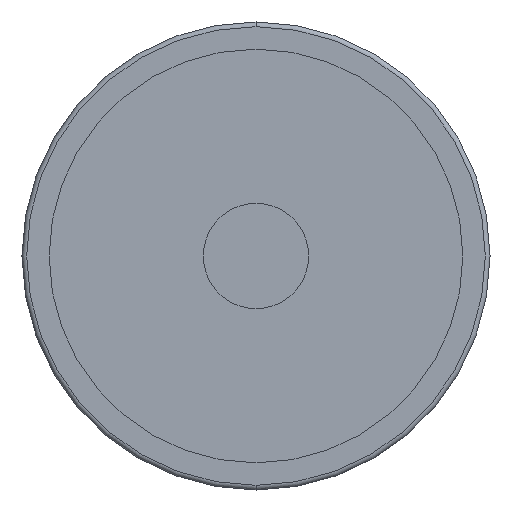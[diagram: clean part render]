
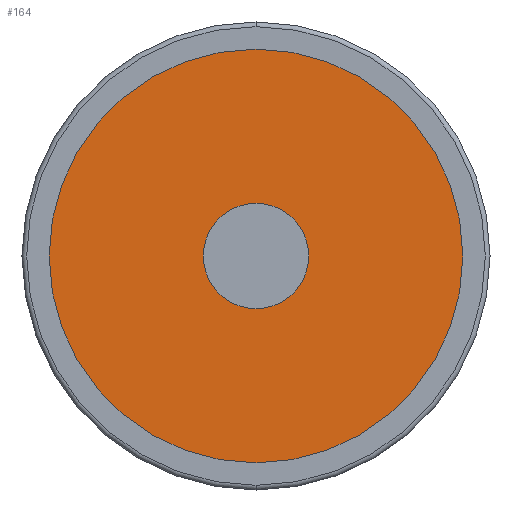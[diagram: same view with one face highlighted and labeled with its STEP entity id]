
A CAD part, front view. The second image highlights one B-rep face of the part: STEP entity #164.
In plain terms, the highlighted planar face has unit normal (0, -1, 0).
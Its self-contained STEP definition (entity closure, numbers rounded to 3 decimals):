
#164 = ADVANCED_FACE ( 'NONE', ( #1526, #2048 ), #1293, .T. ) ;
#238 = VERTEX_POINT ( 'NONE', #1914 ) ;
#316 = DIRECTION ( 'NONE',  ( 1., 0., 0. ) ) ;
#330 = DIRECTION ( 'NONE',  ( 1., 0., 0. ) ) ;
#335 = DIRECTION ( 'NONE',  ( 1., 0., 0. ) ) ;
#363 = CARTESIAN_POINT ( 'NONE',  ( -44.3, 4.5, 0. ) ) ;
#477 = EDGE_CURVE ( 'NONE', #1133, #238, #1060, .T. ) ;
#501 = EDGE_CURVE ( 'NONE', #238, #1133, #1857, .T. ) ;
#524 = VERTEX_POINT ( 'NONE', #1721 ) ;
#551 = DIRECTION ( 'NONE',  ( 0., -1., 0. ) ) ;
#642 = EDGE_LOOP ( 'NONE', ( #773, #657 ) ) ;
#644 = CIRCLE ( 'NONE', #759, 44.3 ) ;
#653 = AXIS2_PLACEMENT_3D ( 'NONE', #1759, #1913, #768 ) ;
#657 = ORIENTED_EDGE ( 'NONE', *, *, #965, .T. ) ;
#708 = CARTESIAN_POINT ( 'NONE',  ( 0., 4.5, 0. ) ) ;
#714 = EDGE_CURVE ( 'NONE', #1301, #524, #1731, .T. ) ;
#759 = AXIS2_PLACEMENT_3D ( 'NONE', #2030, #2274, #316 ) ;
#768 = DIRECTION ( 'NONE',  ( 1., 0., 0. ) ) ;
#773 = ORIENTED_EDGE ( 'NONE', *, *, #714, .T. ) ;
#894 = AXIS2_PLACEMENT_3D ( 'NONE', #1667, #551, #2441 ) ;
#911 = ORIENTED_EDGE ( 'NONE', *, *, #477, .F. ) ;
#965 = EDGE_CURVE ( 'NONE', #524, #1301, #644, .T. ) ;
#1029 = CARTESIAN_POINT ( 'NONE',  ( -10.25, 4.5, 0. ) ) ;
#1060 = CIRCLE ( 'NONE', #1613, 10.25 ) ;
#1133 = VERTEX_POINT ( 'NONE', #1029 ) ;
#1216 = CARTESIAN_POINT ( 'NONE',  ( -44.3, 4.5, 0. ) ) ;
#1275 = DIRECTION ( 'NONE',  ( 0., -1., 0. ) ) ;
#1293 = PLANE ( 'NONE',  #1563 ) ;
#1301 = VERTEX_POINT ( 'NONE', #1216 ) ;
#1526 = FACE_OUTER_BOUND ( 'NONE', #642, .T. ) ;
#1563 = AXIS2_PLACEMENT_3D ( 'NONE', #363, #1859, #335 ) ;
#1590 = ORIENTED_EDGE ( 'NONE', *, *, #501, .F. ) ;
#1613 = AXIS2_PLACEMENT_3D ( 'NONE', #708, #1275, #330 ) ;
#1660 = EDGE_LOOP ( 'NONE', ( #1590, #911 ) ) ;
#1667 = CARTESIAN_POINT ( 'NONE',  ( 0., 4.5, 0. ) ) ;
#1721 = CARTESIAN_POINT ( 'NONE',  ( 44.3, 4.5, 0. ) ) ;
#1731 = CIRCLE ( 'NONE', #653, 44.3 ) ;
#1759 = CARTESIAN_POINT ( 'NONE',  ( 0., 4.5, 0. ) ) ;
#1857 = CIRCLE ( 'NONE', #894, 10.25 ) ;
#1859 = DIRECTION ( 'NONE',  ( 0., -1., 0. ) ) ;
#1913 = DIRECTION ( 'NONE',  ( 0., -1., 0. ) ) ;
#1914 = CARTESIAN_POINT ( 'NONE',  ( 10.25, 4.5, 0. ) ) ;
#2030 = CARTESIAN_POINT ( 'NONE',  ( 0., 4.5, 0. ) ) ;
#2048 = FACE_BOUND ( 'NONE', #1660, .T. ) ;
#2274 = DIRECTION ( 'NONE',  ( 0., -1., 0. ) ) ;
#2441 = DIRECTION ( 'NONE',  ( 1., 0., 0. ) ) ;
